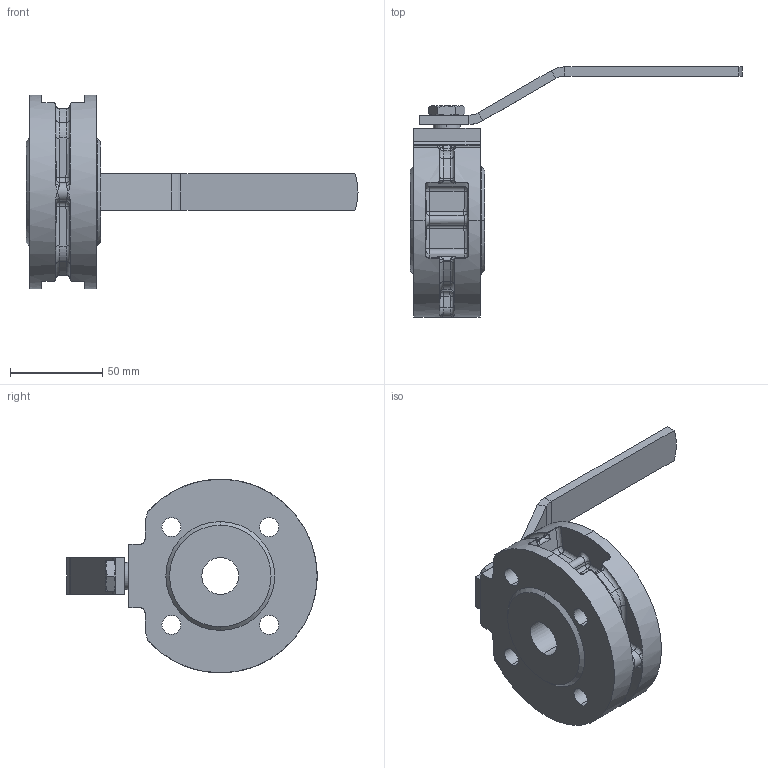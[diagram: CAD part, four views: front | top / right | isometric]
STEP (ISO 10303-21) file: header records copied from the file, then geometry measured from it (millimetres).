
FILE_DESCRIPTION (( 'STEP AP203' ), '1' );
FILE_NAME ('B1.000I020L16CN_1.STEP', '2012-06-08T11:41:32', ( ' ' ), ( '' ), 'SwSTEP 2.0', 'SolidWorks 2009', '' );
FILE_SCHEMA (( 'CONFIG_CONTROL_DESIGN' ));
Length unit declared in the file: millimetre
Products named in the file (1): B1.000I020L16CN_1
Bounding box: 180 x 135.68 x 105 mm (x, y, z)
Volume: 274262.7 mm3; surface area: 50171.1 mm2
Topology: 1 solids, 1 shells, 323 faces, 779 edges, 453 vertices
Faces by surface type: bspline 124, cylinder 78, plane 55, cone 38, sphere 20, torus 8
Entity records: 13896 total; most frequent: CARTESIAN_POINT 7344, ORIENTED_EDGE 1526, DIRECTION 1108, EDGE_CURVE 763, AXIS2_PLACEMENT_3D 464, VERTEX_POINT 453, EDGE_LOOP 344, FACE_OUTER_BOUND 323
